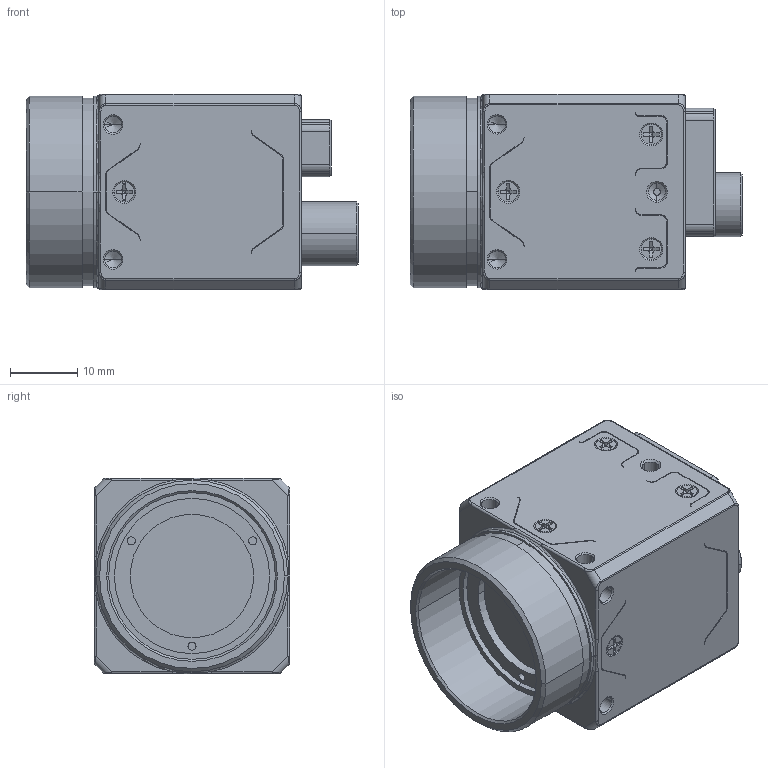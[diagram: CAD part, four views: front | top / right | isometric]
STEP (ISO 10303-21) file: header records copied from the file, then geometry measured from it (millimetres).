
FILE_DESCRIPTION((''),'2;1');
FILE_NAME('00-MV-CT050-60UM_ASM','2025-08-27T10:25:01',('sunli10'),(''),'CREO PARAMETRIC BY PTC INC, 2020044','CREO PARAMETRIC BY PTC INC, 2020044','');
FILE_SCHEMA(('CONFIG_CONTROL_DESIGN'));
Products named in the file (1): 00-MV-CT050-60UM_ASM
Bounding box: 49.21 x 29 x 29 mm (x, y, z)
Volume: 26944.3 mm3; surface area: 13528.6 mm2
Topology: 2 solids, 70 shells, 4622 faces, 12945 edges, 8389 vertices
Faces by surface type: plane 2701, cylinder 1465, cone 352, torus 52, bspline 50, sphere 2
Entity records: 157292 total; most frequent: CARTESIAN_POINT 37193, ORIENTED_EDGE 25782, DIRECTION 24590, EDGE_CURVE 12891, VERTEX_POINT 8387, VECTOR 8362, LINE 8362, AXIS2_PLACEMENT_3D 8114
